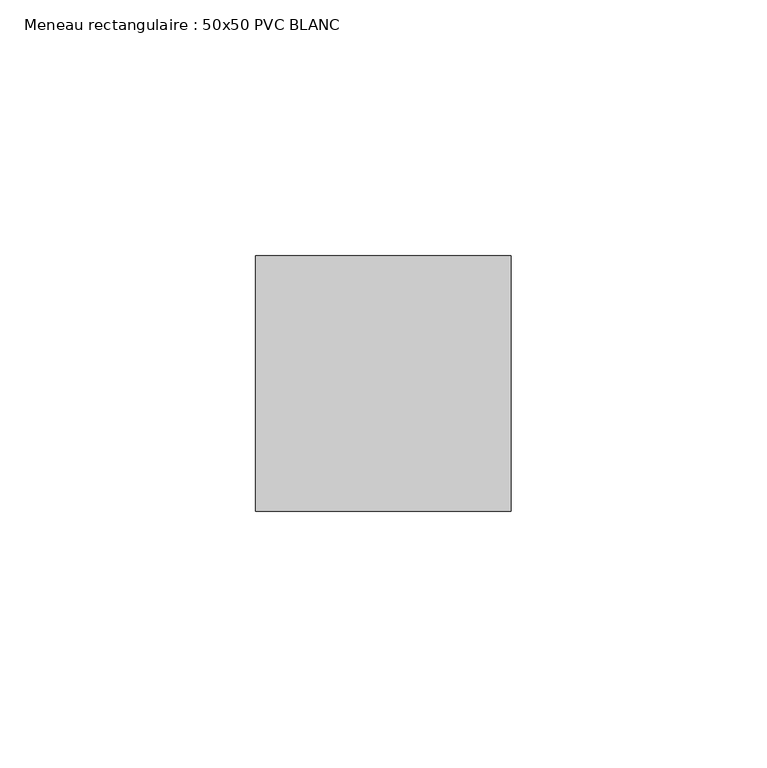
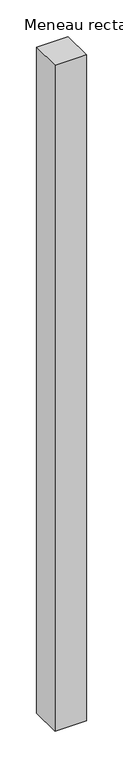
"""IFC4 building model written with IfcOpenShell, lengths in millimetres: member geometry, Meneau rectangulaire : 50x50 PVC BLANC."""

import ifcopenshell
import ifcopenshell.guid

model = None  # the IFC model being written
_history = None  # IfcOwnerHistory: only IFC2X3 demands one
_inside = {}  # id of a spatial element -> (the spatial element, [elements in it])
_under = {}  # id of a project, library or spatial element -> (it, [spatial elements below it])
_declared = {}  # id of a project -> (the project, [libraries it declares])
_typed = {}  # id of a type object -> (the type object, [elements of that type])
_made_of = {}  # id of a material, layer set ... -> (it, [elements and type objects made of it])


def new_model(schema):
    """Start an empty IFC model of exactly this schema.

    Asked for "IFC4X3", IfcOpenShell would pick the latest addendum, in which some entities
    have other attributes; the version numbers below select the first issue.
    IFC2X3 requires an IfcOwnerHistory on every rooted entity: one is made here for all.
    """
    global model, _history
    if schema == "IFC4X3":
        model = ifcopenshell.file(schema_version=(4, 3, 0, 0))
    else:
        model = ifcopenshell.file(schema=schema)
    _inside.clear()
    _under.clear()
    _declared.clear()
    _typed.clear()
    _made_of.clear()
    _history = None
    if model.schema == "IFC2X3":
        org = make("IfcOrganization", Name="unknown")
        user = make(
            "IfcPersonAndOrganization",
            ThePerson=make("IfcPerson", FamilyName="unknown"),
            TheOrganization=org,
        )
        app = make(
            "IfcApplication",
            ApplicationDeveloper=org,
            Version="unknown",
            ApplicationFullName="unknown",
            ApplicationIdentifier="unknown",
        )
        _history = make(
            "IfcOwnerHistory",
            OwningUser=user,
            OwningApplication=app,
            ChangeAction="ADDED",
            CreationDate=0,
        )
    return model


def make(cls, **values):
    """One entity of the class cls with the attributes given. An attribute that is None is left unset."""
    return model.create_entity(
        cls, **{name: value for name, value in values.items() if value is not None}
    )


def rooted(cls, **values):
    """An entity with a GlobalId (a new one), such as an element, a storey or a relation."""
    return make(cls, GlobalId=ifcopenshell.guid.new(), OwnerHistory=_history, **values)


def si_unit(unit_type, name, prefix=None):
    """IfcSIUnit, for example si_unit("LENGTHUNIT", "METRE", prefix="MILLI")."""
    return make("IfcSIUnit", UnitType=unit_type, Prefix=prefix, Name=name)


def assignment(units):
    """IfcUnitAssignment: the units of a project."""
    return None if units is None else make("IfcUnitAssignment", Units=units)


def point(xyz):
    """IfcCartesianPoint."""
    return None if xyz is None else make("IfcCartesianPoint", Coordinates=xyz)


def direction(xyz):
    """IfcDirection."""
    return None if xyz is None else make("IfcDirection", DirectionRatios=xyz)


def frame(location, z_axis=None, x_axis=None):
    """IfcAxis2Placement3D, a coordinate frame: its origin and axes. An axis left out is left unset."""
    return make(
        "IfcAxis2Placement3D",
        Location=point(location),
        Axis=direction(z_axis),
        RefDirection=direction(x_axis),
    )


def origin():
    """The frame at (0, 0, 0) with its axes left unset."""
    return frame((0.0, 0.0, 0.0))


def place(relative_to, where):
    """IfcLocalPlacement: puts the frame where relative to a parent placement (None: the world)."""
    return make(
        "IfcLocalPlacement", PlacementRelTo=relative_to, RelativePlacement=where
    )


def context(
    kind, dimensions, precision=None, world=None, true_north=None, identifier=None
):
    """IfcGeometricRepresentationContext, for example the 3D "Model" context."""
    return make(
        "IfcGeometricRepresentationContext",
        ContextIdentifier=identifier,
        ContextType=kind,
        CoordinateSpaceDimension=dimensions,
        Precision=precision,
        WorldCoordinateSystem=world,
        TrueNorth=true_north,
    )


def project(units=None, contexts=None):
    """IfcProject with its units and contexts."""
    return rooted(
        "IfcProject",
        Name="project",
        RepresentationContexts=contexts,
        UnitsInContext=assignment(units),
    )


def spatial(cls, under=None, at=None, **own):
    """A site, building, storey or space (cls), placed at a placement, below another one or the project."""
    s = rooted(cls, ObjectPlacement=at, **own)
    if under is not None:
        _under.setdefault(under.id(), (under, []))[1].append(s)
    return s


def polyline(points):
    """IfcPolyline through the points."""
    return make("IfcPolyline", Points=[point(p) for p in points])


def outline(outer, holes=None, kind="AREA"):
    """IfcArbitraryClosedProfileDef: a profile drawn as a closed curve; with holes, ...WithVoids."""
    if holes is None:
        return make("IfcArbitraryClosedProfileDef", ProfileType=kind, OuterCurve=outer)
    return make(
        "IfcArbitraryProfileDefWithVoids",
        ProfileType=kind,
        OuterCurve=outer,
        InnerCurves=holes,
    )


def extrude(swept, where, along, depth):
    """IfcExtrudedAreaSolid: the profile swept, set in the frame where, extruded along a direction by depth."""
    return make(
        "IfcExtrudedAreaSolid",
        SweptArea=swept,
        Position=where,
        ExtrudedDirection=direction(along),
        Depth=depth,
    )


def shape(context_of_items, identifier, shape_type, items):
    """IfcShapeRepresentation: the items that make up one representation, for example the "Body"."""
    return make(
        "IfcShapeRepresentation",
        ContextOfItems=context_of_items,
        RepresentationIdentifier=identifier,
        RepresentationType=shape_type,
        Items=items,
    )


def source(mapping_origin, context_of_items, identifier, shape_type, items):
    """IfcRepresentationMap: a shape defined once, which mapped items show again and again."""
    return make(
        "IfcRepresentationMap",
        MappingOrigin=mapping_origin,
        MappedRepresentation=shape(context_of_items, identifier, shape_type, items),
    )


def transform(
    local_origin,
    x_axis=None,
    y_axis=None,
    z_axis=None,
    scale=None,
    scale2=None,
    scale3=None,
    uniform=True,
):
    """IfcCartesianTransformationOperator3D, or its non-uniform kind. x_axis, y_axis, z_axis: its Axis1, 2, 3."""
    if uniform:
        return make(
            "IfcCartesianTransformationOperator3D",
            Axis1=direction(x_axis),
            Axis2=direction(y_axis),
            LocalOrigin=point(local_origin),
            Scale=scale,
            Axis3=direction(z_axis),
        )
    return make(
        "IfcCartesianTransformationOperator3DnonUniform",
        Axis1=direction(x_axis),
        Axis2=direction(y_axis),
        LocalOrigin=point(local_origin),
        Scale=scale,
        Axis3=direction(z_axis),
        Scale2=scale2,
        Scale3=scale3,
    )


def mapped(mapping_source, mapping_target):
    """IfcMappedItem: shows the shape of a source again, moved by a transform."""
    return make(
        "IfcMappedItem", MappingSource=mapping_source, MappingTarget=mapping_target
    )


def made_of(thing, what):
    """Note that an element or type object is made of a material, layer set ...; save() writes the relation."""
    if what is not None:
        _made_of.setdefault(what.id(), (what, []))[1].append(thing)
    return thing


def element(
    cls,
    number,
    at=None,
    inside=None,
    cuts=None,
    type_object=None,
    material=None,
    context=None,
    identifier="Body",
    shape_type=None,
    held_by="IfcProductDefinitionShape",
    body=None,
    shapes=None,
    **own,
):
    """One element of the class cls, such as IfcWall. Its Tag is "e" and its number.

    at: its placement. inside: the storey or other place that contains it. cuts: it is an
    opening in that element (IfcRelVoidsElement). A single representation is given by context,
    identifier, shape_type and body (its items); several are given by shapes. held_by: the class
    of the entity that holds the representations. save() writes the other relations.
    """
    e = rooted(cls, Tag="e%d" % number, ObjectPlacement=at, **own)
    if body is not None:
        shapes = [shape(context, identifier, shape_type, body)]
    if shapes is not None:
        e.Representation = make(held_by, Representations=shapes)
    if inside is not None:
        _inside.setdefault(inside.id(), (inside, []))[1].append(e)
    if cuts is not None:
        rooted(
            "IfcRelVoidsElement", RelatingBuildingElement=cuts, RelatedOpeningElement=e
        )
    if type_object is not None:
        _typed.setdefault(type_object.id(), (type_object, []))[1].append(e)
    return made_of(e, material)


def aggregate(whole, parts):
    """IfcRelAggregates: a whole, such as a stair, and the parts it consists of."""
    return rooted("IfcRelAggregates", RelatingObject=whole, RelatedObjects=parts)


def save(model, path):
    """Write the relations noted so far, then the file.

    IfcRelAggregates (storeys below a building ...), IfcRelContainedInSpatialStructure (elements
    in a storey), IfcRelDefinesByType, IfcRelAssociatesMaterial and IfcRelDeclares: one each for
    every whole, place, type object, material and project.
    """
    for whole, parts in _under.values():
        aggregate(whole, parts)
    for where, things in _inside.values():
        rooted(
            "IfcRelContainedInSpatialStructure",
            RelatedElements=things,
            RelatingStructure=where,
        )
    for kind, things in _typed.values():
        rooted("IfcRelDefinesByType", RelatedObjects=things, RelatingType=kind)
    for what, things in _made_of.values():
        rooted("IfcRelAssociatesMaterial", RelatedObjects=things, RelatingMaterial=what)
    for by, libraries in _declared.values():
        rooted("IfcRelDeclares", RelatingContext=by, RelatedDefinitions=libraries)
    model.write(path)


def meneau_rectangulaire_50x50_pvc_blanc_e2df5208(model_context):
    return source(origin(), model_context, "Body", "SweptSolid", [
        extrude(outline(polyline([(0.0, 0.0), (0.0, -50.0), (-50.0, -50.0), (-50.0, 0.0), (0.0, 0.0)])), frame((0.0, 0.0, -1107.848092), z_axis=(0.0, 0.0, 1.0), x_axis=(1.0, 0.0, 0.0)), (0.0, 0.0, 1.0), 1107.848092),
    ])


if __name__ == "__main__":
    model = new_model("IFC4")
    model_context = context("Model", 3, world=origin())
    ifc_project = project(units=[si_unit("LENGTHUNIT", "METRE", prefix="MILLI")], contexts=[model_context])
    site = spatial("IfcSite", under=ifc_project)
    building = spatial("IfcBuilding", under=site)
    placement = place(None, origin())
    meneau_rectangulaire_50x50_pvc_blanc_shape = meneau_rectangulaire_50x50_pvc_blanc_e2df5208(model_context)
    element("IfcMember", 1, ObjectType="Meneau rectangulaire : 50x50 PVC BLANC", at=placement, inside=building, context=model_context, shape_type="MappedRepresentation", body=[
        mapped(meneau_rectangulaire_50x50_pvc_blanc_shape, transform((0.0, 0.0, 0.0), x_axis=(1.0, 0.0, 0.0), y_axis=(0.0, 1.0, 0.0), z_axis=(0.0, 0.0, 1.0))),
    ])
    save(model, "model.ifc")
